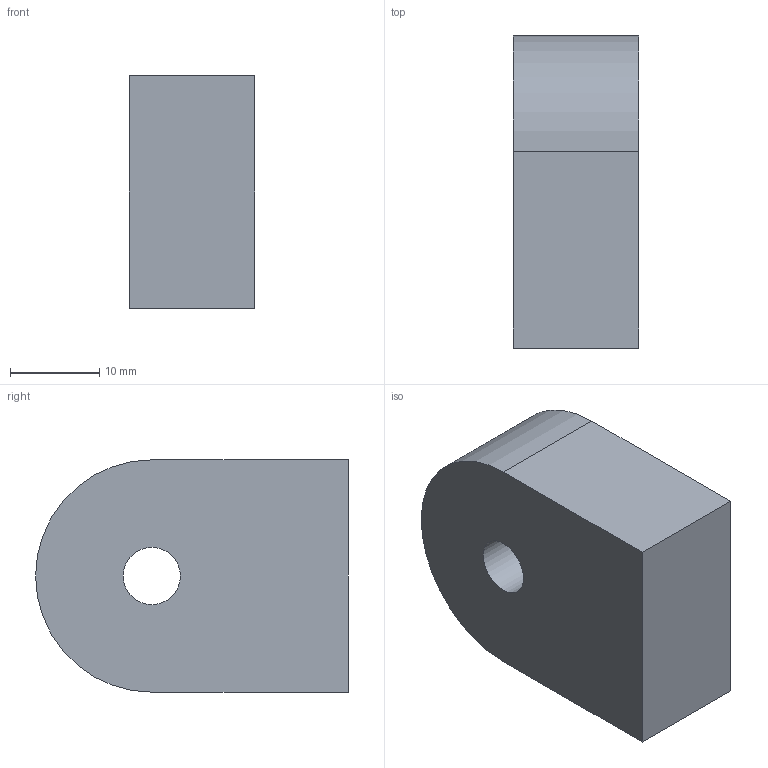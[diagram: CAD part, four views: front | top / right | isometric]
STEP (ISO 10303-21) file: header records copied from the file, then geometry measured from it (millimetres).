
FILE_DESCRIPTION(('Open CASCADE Model'),'2;1');
FILE_NAME('Open CASCADE Shape Model','2026-11-06T11:30:49',('Author'),( 'Open CASCADE'),'Open CASCADE STEP processor 7.8','Open CASCADE 7.8' ,'Unknown');
FILE_SCHEMA(('AUTOMOTIVE_DESIGN { 1 0 10303 214 1 1 1 1 }'));
Length unit declared in the file: millimetre
Products named in the file (1): Open CASCADE STEP translator 7.8 4
Bounding box: 14 x 35 x 26 mm (x, y, z)
Volume: 11274.1 mm3; surface area: 3443.8 mm2
Topology: 1 solids, 1 shells, 7 faces, 15 edges, 10 vertices
Faces by surface type: plane 5, cylinder 2
Full cylindrical faces by diameter (mm): 6.4 x1
Entity records: 404 total; most frequent: CARTESIAN_POINT 70, DIRECTION 63, LINE 36, VECTOR 36, ORIENTED_EDGE 30, PCURVE 30, DEFINITIONAL_REPRESENTATION 30, EDGE_CURVE 15
